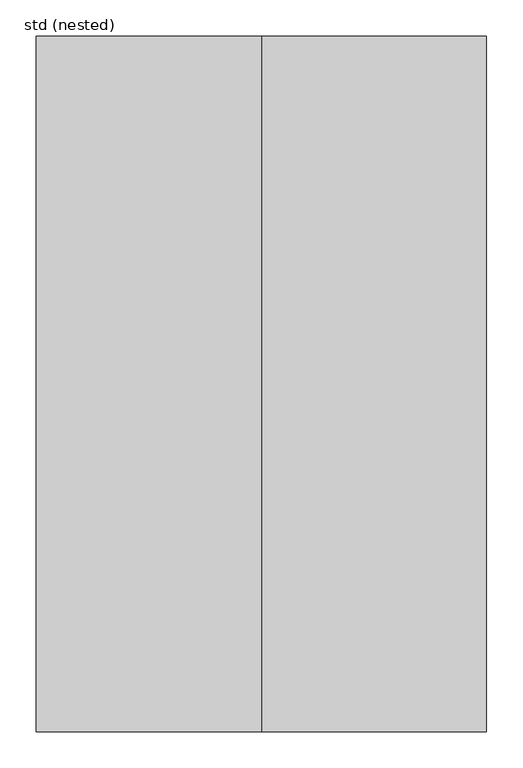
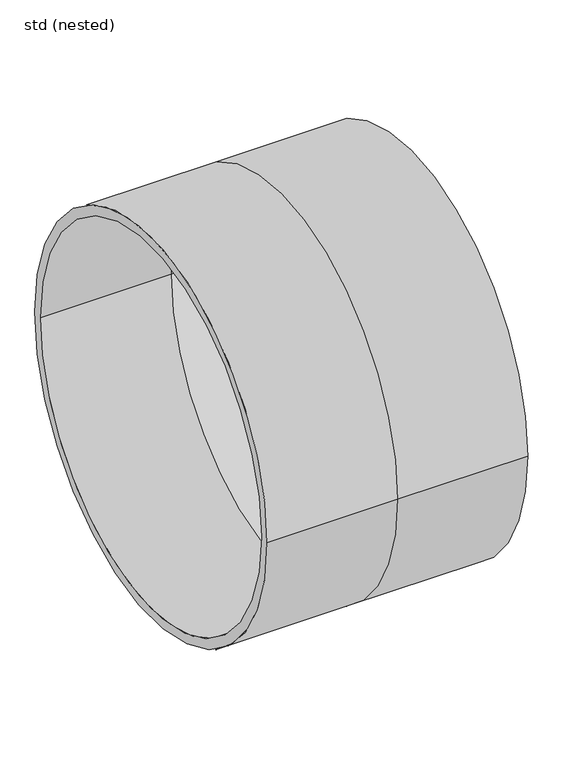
"""IFC4 building model written with IfcOpenShell, lengths in millimetres: pipe fitting geometry, NLRS_52_PIF_WPB_Ultra Kyma steekmof 2MV SH_Dyka : std (nested)."""

import ifcopenshell
import ifcopenshell.guid

model = None  # the IFC model being written
_history = None  # IfcOwnerHistory: only IFC2X3 demands one
_inside = {}  # id of a spatial element -> (the spatial element, [elements in it])
_under = {}  # id of a project, library or spatial element -> (it, [spatial elements below it])
_declared = {}  # id of a project -> (the project, [libraries it declares])
_typed = {}  # id of a type object -> (the type object, [elements of that type])
_made_of = {}  # id of a material, layer set ... -> (it, [elements and type objects made of it])


def new_model(schema):
    """Start an empty IFC model of exactly this schema.

    Asked for "IFC4X3", IfcOpenShell would pick the latest addendum, in which some entities
    have other attributes; the version numbers below select the first issue.
    IFC2X3 requires an IfcOwnerHistory on every rooted entity: one is made here for all.
    """
    global model, _history
    if schema == "IFC4X3":
        model = ifcopenshell.file(schema_version=(4, 3, 0, 0))
    else:
        model = ifcopenshell.file(schema=schema)
    _inside.clear()
    _under.clear()
    _declared.clear()
    _typed.clear()
    _made_of.clear()
    _history = None
    if model.schema == "IFC2X3":
        org = make("IfcOrganization", Name="unknown")
        user = make(
            "IfcPersonAndOrganization",
            ThePerson=make("IfcPerson", FamilyName="unknown"),
            TheOrganization=org,
        )
        app = make(
            "IfcApplication",
            ApplicationDeveloper=org,
            Version="unknown",
            ApplicationFullName="unknown",
            ApplicationIdentifier="unknown",
        )
        _history = make(
            "IfcOwnerHistory",
            OwningUser=user,
            OwningApplication=app,
            ChangeAction="ADDED",
            CreationDate=0,
        )
    return model


def make(cls, **values):
    """One entity of the class cls with the attributes given. An attribute that is None is left unset."""
    return model.create_entity(
        cls, **{name: value for name, value in values.items() if value is not None}
    )


def rooted(cls, **values):
    """An entity with a GlobalId (a new one), such as an element, a storey or a relation."""
    return make(cls, GlobalId=ifcopenshell.guid.new(), OwnerHistory=_history, **values)


def si_unit(unit_type, name, prefix=None):
    """IfcSIUnit, for example si_unit("LENGTHUNIT", "METRE", prefix="MILLI")."""
    return make("IfcSIUnit", UnitType=unit_type, Prefix=prefix, Name=name)


def assignment(units):
    """IfcUnitAssignment: the units of a project."""
    return None if units is None else make("IfcUnitAssignment", Units=units)


def point(xyz):
    """IfcCartesianPoint."""
    return None if xyz is None else make("IfcCartesianPoint", Coordinates=xyz)


def direction(xyz):
    """IfcDirection."""
    return None if xyz is None else make("IfcDirection", DirectionRatios=xyz)


def frame(location, z_axis=None, x_axis=None):
    """IfcAxis2Placement3D, a coordinate frame: its origin and axes. An axis left out is left unset."""
    return make(
        "IfcAxis2Placement3D",
        Location=point(location),
        Axis=direction(z_axis),
        RefDirection=direction(x_axis),
    )


def origin():
    """The frame at (0, 0, 0) with its axes left unset."""
    return frame((0.0, 0.0, 0.0))


def place(relative_to, where):
    """IfcLocalPlacement: puts the frame where relative to a parent placement (None: the world)."""
    return make(
        "IfcLocalPlacement", PlacementRelTo=relative_to, RelativePlacement=where
    )


def context(
    kind, dimensions, precision=None, world=None, true_north=None, identifier=None
):
    """IfcGeometricRepresentationContext, for example the 3D "Model" context."""
    return make(
        "IfcGeometricRepresentationContext",
        ContextIdentifier=identifier,
        ContextType=kind,
        CoordinateSpaceDimension=dimensions,
        Precision=precision,
        WorldCoordinateSystem=world,
        TrueNorth=true_north,
    )


def project(units=None, contexts=None):
    """IfcProject with its units and contexts."""
    return rooted(
        "IfcProject",
        Name="project",
        RepresentationContexts=contexts,
        UnitsInContext=assignment(units),
    )


def spatial(cls, under=None, at=None, **own):
    """A site, building, storey or space (cls), placed at a placement, below another one or the project."""
    s = rooted(cls, ObjectPlacement=at, **own)
    if under is not None:
        _under.setdefault(under.id(), (under, []))[1].append(s)
    return s


def polyline(points):
    """IfcPolyline through the points."""
    return make("IfcPolyline", Points=[point(p) for p in points])


def circle_curve(where, radius):
    """IfcCircle in the frame where."""
    return make("IfcCircle", Position=where, Radius=radius)


def shape(context_of_items, identifier, shape_type, items):
    """IfcShapeRepresentation: the items that make up one representation, for example the "Body"."""
    return make(
        "IfcShapeRepresentation",
        ContextOfItems=context_of_items,
        RepresentationIdentifier=identifier,
        RepresentationType=shape_type,
        Items=items,
    )


def source(mapping_origin, context_of_items, identifier, shape_type, items):
    """IfcRepresentationMap: a shape defined once, which mapped items show again and again."""
    return make(
        "IfcRepresentationMap",
        MappingOrigin=mapping_origin,
        MappedRepresentation=shape(context_of_items, identifier, shape_type, items),
    )


def transform(
    local_origin,
    x_axis=None,
    y_axis=None,
    z_axis=None,
    scale=None,
    scale2=None,
    scale3=None,
    uniform=True,
):
    """IfcCartesianTransformationOperator3D, or its non-uniform kind. x_axis, y_axis, z_axis: its Axis1, 2, 3."""
    if uniform:
        return make(
            "IfcCartesianTransformationOperator3D",
            Axis1=direction(x_axis),
            Axis2=direction(y_axis),
            LocalOrigin=point(local_origin),
            Scale=scale,
            Axis3=direction(z_axis),
        )
    return make(
        "IfcCartesianTransformationOperator3DnonUniform",
        Axis1=direction(x_axis),
        Axis2=direction(y_axis),
        LocalOrigin=point(local_origin),
        Scale=scale,
        Axis3=direction(z_axis),
        Scale2=scale2,
        Scale3=scale3,
    )


def mapped(mapping_source, mapping_target):
    """IfcMappedItem: shows the shape of a source again, moved by a transform."""
    return make(
        "IfcMappedItem", MappingSource=mapping_source, MappingTarget=mapping_target
    )


def made_of(thing, what):
    """Note that an element or type object is made of a material, layer set ...; save() writes the relation."""
    if what is not None:
        _made_of.setdefault(what.id(), (what, []))[1].append(thing)
    return thing


def element(
    cls,
    number,
    at=None,
    inside=None,
    cuts=None,
    type_object=None,
    material=None,
    context=None,
    identifier="Body",
    shape_type=None,
    held_by="IfcProductDefinitionShape",
    body=None,
    shapes=None,
    **own,
):
    """One element of the class cls, such as IfcWall. Its Tag is "e" and its number.

    at: its placement. inside: the storey or other place that contains it. cuts: it is an
    opening in that element (IfcRelVoidsElement). A single representation is given by context,
    identifier, shape_type and body (its items); several are given by shapes. held_by: the class
    of the entity that holds the representations. save() writes the other relations.
    """
    e = rooted(cls, Tag="e%d" % number, ObjectPlacement=at, **own)
    if body is not None:
        shapes = [shape(context, identifier, shape_type, body)]
    if shapes is not None:
        e.Representation = make(held_by, Representations=shapes)
    if inside is not None:
        _inside.setdefault(inside.id(), (inside, []))[1].append(e)
    if cuts is not None:
        rooted(
            "IfcRelVoidsElement", RelatingBuildingElement=cuts, RelatedOpeningElement=e
        )
    if type_object is not None:
        _typed.setdefault(type_object.id(), (type_object, []))[1].append(e)
    return made_of(e, material)


def aggregate(whole, parts):
    """IfcRelAggregates: a whole, such as a stair, and the parts it consists of."""
    return rooted("IfcRelAggregates", RelatingObject=whole, RelatedObjects=parts)


def save(model, path):
    """Write the relations noted so far, then the file.

    IfcRelAggregates (storeys below a building ...), IfcRelContainedInSpatialStructure (elements
    in a storey), IfcRelDefinesByType, IfcRelAssociatesMaterial and IfcRelDeclares: one each for
    every whole, place, type object, material and project.
    """
    for whole, parts in _under.values():
        aggregate(whole, parts)
    for where, things in _inside.values():
        rooted(
            "IfcRelContainedInSpatialStructure",
            RelatedElements=things,
            RelatingStructure=where,
        )
    for kind, things in _typed.values():
        rooted("IfcRelDefinesByType", RelatedObjects=things, RelatingType=kind)
    for what, things in _made_of.values():
        rooted("IfcRelAssociatesMaterial", RelatedObjects=things, RelatingMaterial=what)
    for by, libraries in _declared.values():
        rooted("IfcRelDeclares", RelatingContext=by, RelatedDefinitions=libraries)
    model.write(path)


def plane_surface(at):
    """IfcPlane: the flat surface through the origin of the frame at, square to its z axis."""
    return make("IfcPlane", Position=at)


def cylinder_surface(at, radius):
    """IfcCylindricalSurface: all points at the distance radius from the z axis of the frame at."""
    return make("IfcCylindricalSurface", Position=at, Radius=radius)


def revolved_surface(curve, axis_point, axis_direction):
    """IfcSurfaceOfRevolution: the curve turned about the line through axis_point along axis_direction."""
    return make(
        "IfcSurfaceOfRevolution",
        SweptCurve=make("IfcArbitraryOpenProfileDef", ProfileType="CURVE", Curve=curve),
        AxisPosition=make("IfcAxis1Placement", Location=point(axis_point), Axis=direction(axis_direction)),
    )


def advanced_brep(points, edges, surfaces, faces):
    """IfcAdvancedBrep: a solid bounded by faces that lie on surfaces and meet in shared edges.

    An edge is (start, end): straight between two places in points (the first is 0);
    or (start, end, curve); or (start, end, curve, False) where it runs against its curve.
    A face is (place in surfaces, loops), or (place, loops, False) where it looks against
    its surface's normal. A loop lists edges by number (the first is 1), with a minus sign
    where the edge is run from its end to its start. The first loop is the outer one.
    """
    corners = [point(p) for p in points]
    vertices = [make("IfcVertexPoint", VertexGeometry=c) for c in corners]
    made = []
    for start, end, *more in edges:
        made.append(
            make(
                "IfcEdgeCurve",
                EdgeStart=vertices[start],
                EdgeEnd=vertices[end],
                EdgeGeometry=more[0] if more else make("IfcPolyline", Points=[corners[start], corners[end]]),
                SameSense=more[1] if len(more) > 1 else True,
            )
        )
    hull = []
    for where, loops, *sense in faces:
        bounds = []
        for j, loop in enumerate(loops):
            ring = [make("IfcOrientedEdge", EdgeElement=made[abs(k) - 1], Orientation=k > 0) for k in loop]
            bounds.append(
                make(
                    "IfcFaceOuterBound" if j == 0 else "IfcFaceBound",
                    Bound=make("IfcEdgeLoop", EdgeList=ring),
                    Orientation=True,
                )
            )
        hull.append(make("IfcAdvancedFace", Bounds=bounds, FaceSurface=surfaces[where], SameSense=sense[0] if sense else True))
    return make("IfcAdvancedBrep", Outer=make("IfcClosedShell", CfsFaces=hull))


def std_nested_dc4f9670(model_context):
    return source(origin(), model_context, "Body", "AdvancedBrep", [
        advanced_brep(
        [(0.0, -477.0, 0.0), (-309.0, -477.0, 0.0), (-309.0, 477.0, 0.0), (0.0, 477.0, 0.0), (-309.0, 453.0, 0.0), (-309.0, -453.0, 0.0), (0.0, -453.0, 0.0), (0.0, 453.0, 0.0), (309.0, 477.0, 0.0), (309.0, -477.0, 0.0), (309.0, -453.0, 0.0), (309.0, 453.0, 0.0)],
        [
            (0, 1),
            (1, 2, circle_curve(frame((-309.0, 0.0, 0.0), z_axis=(1.0, 0.0, 0.0), x_axis=(0.0, -1.0, 0.0)), 477.0)),
            (2, 3),
            (3, 0, circle_curve(frame((0.0, 0.0, 0.0), z_axis=(-1.0, 0.0, 0.0), x_axis=(0.0, -1.0, 0.0)), 477.0)),
            (4, 5, circle_curve(frame((-309.0, 0.0, 0.0), z_axis=(-1.0, 0.0, 0.0), x_axis=(0.0, -1.0, 0.0)), 453.0)),
            (5, 6),
            (6, 7, circle_curve(frame((0.0, 0.0, 0.0), z_axis=(1.0, 0.0, 0.0), x_axis=(0.0, -1.0, 0.0)), 453.0)),
            (7, 4),
            (0, 3, circle_curve(frame((0.0, 0.0, 0.0), z_axis=(-1.0, 0.0, 0.0), x_axis=(0.0, 1.0, 0.0)), 477.0)),
            (2, 1, circle_curve(frame((-309.0, 0.0, 0.0), z_axis=(1.0, 0.0, 0.0), x_axis=(0.0, 1.0, 0.0)), 477.0)),
            (4, 5, circle_curve(frame((-309.0, 0.0, 0.0), z_axis=(1.0, 0.0, 0.0), x_axis=(0.0, 1.0, 0.0)), 453.0)),
            (7, 6, circle_curve(frame((0.0, 0.0, 0.0), z_axis=(1.0, 0.0, 0.0), x_axis=(0.0, 1.0, 0.0)), 453.0)),
            (8, 9, circle_curve(frame((309.0, 0.0, 0.0), z_axis=(-1.0, 0.0, 0.0), x_axis=(0.0, -1.0, 0.0)), 477.0)),
            (9, 0),
            (3, 8),
            (6, 10),
            (10, 11, circle_curve(frame((309.0, 0.0, 0.0), z_axis=(1.0, 0.0, 0.0), x_axis=(0.0, -1.0, 0.0)), 453.0)),
            (11, 7),
            (9, 8, circle_curve(frame((309.0, 0.0, 0.0), z_axis=(-1.0, 0.0, 0.0), x_axis=(0.0, 1.0, 0.0)), 477.0)),
            (10, 11, circle_curve(frame((309.0, 0.0, 0.0), z_axis=(-1.0, 0.0, 0.0), x_axis=(0.0, 1.0, 0.0)), 453.0)),
        ],
        [
            cylinder_surface(frame((0.0, 0.0, 0.0), z_axis=(1.0, 0.0, 0.0), x_axis=(0.0, -1.0, 0.0)), 477.0),
            revolved_surface(polyline([(0.0, -453.0, 0.0), (-309.0, -453.0, 0.0)]), (0.0, 0.0, 0.0), (1.0, 0.0, 0.0)),
            cylinder_surface(frame((0.0, 0.0, 0.0), z_axis=(1.0, 0.0, 0.0), x_axis=(0.0, 1.0, 0.0)), 477.0),
            plane_surface(frame((-309.0, 0.0, 0.0), z_axis=(-1.0, 0.0, 0.0), x_axis=(0.0, 1.0, 0.0))),
            revolved_surface(polyline([(0.0, 453.0, 0.0), (-309.0, 453.0, 0.0)]), (0.0, 0.0, 0.0), (1.0, 0.0, 0.0)),
            revolved_surface(polyline([(309.0, -453.0, 0.0), (0.0, -453.0, 0.0)]), (0.0, 0.0, 0.0), (1.0, 0.0, 0.0)),
            plane_surface(frame((309.0, 0.0, 0.0), z_axis=(1.0, 0.0, 0.0), x_axis=(0.0, 1.0, 0.0))),
            revolved_surface(polyline([(309.0, 453.0, 0.0), (0.0, 453.0, 0.0)]), (0.0, 0.0, 0.0), (1.0, 0.0, 0.0)),
        ],
        [
            (0, [[1, 2, 3, 4]]),
            (1, [[5, 6, 7, 8]]),
            (2, [[-1, 9, -3, 10]]),
            (3, [[-2, -10], [-5, 11]]),
            (4, [[-6, -11, -8, 12]]),
            (0, [[13, 14, -4, 15]]),
            (5, [[16, 17, 18, -7]]),
            (2, [[-14, 19, -15, -9]]),
            (6, [[-13, -19], [-17, 20]]),
            (7, [[-16, -12, -18, -20]]),
        ],
    ),
    ])


if __name__ == "__main__":
    model = new_model("IFC4")
    model_context = context("Model", 3, world=origin())
    ifc_project = project(units=[si_unit("LENGTHUNIT", "METRE", prefix="MILLI")], contexts=[model_context])
    site = spatial("IfcSite", under=ifc_project)
    building = spatial("IfcBuilding", under=site)
    placement = place(None, origin())
    std_nested_shape = std_nested_dc4f9670(model_context)
    element("IfcPipeFitting", 1, ObjectType="NLRS_52_PIF_WPB_Ultra Kyma steekmof 2MV SH_Dyka : std (nested)", at=placement, inside=building, context=model_context, shape_type="MappedRepresentation", body=[
        mapped(std_nested_shape, transform((0.0, 0.0, 0.0), x_axis=(1.0, 0.0, 0.0), y_axis=(0.0, 1.0, 0.0), z_axis=(0.0, 0.0, 1.0))),
    ])
    save(model, "model.ifc")
